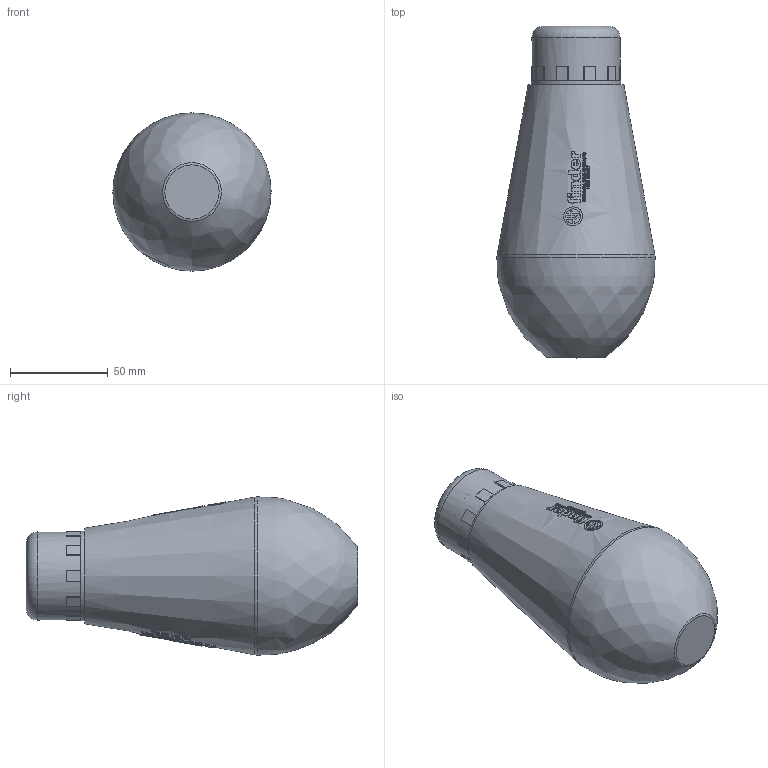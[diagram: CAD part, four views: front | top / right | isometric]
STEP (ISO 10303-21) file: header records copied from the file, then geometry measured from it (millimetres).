
FILE_DESCRIPTION(/* description */ (''),/* implementation_level */ '2;1');
FILE_NAME(/* name */ 'C:\Matic\LOVATO\Finder\Disegni Per finder\Finder Mercury.stp',/* time_stamp */ '2022-12-22T12:20:14+01:00',/* author */ ('Enrico'),/* organization */ (''),/* preprocessor_version */ 'ST-DEVELOPER v18.1',/* originating_system */ 'Autodesk Inventor 2021',/* authorisation */ '');
FILE_SCHEMA (('AUTOMOTIVE_DESIGN { 1 0 10303 214 3 1 1 }'));
Products named in the file (3): Finder Mercury Assieme; Finder mercury; ghiera Hydros
Assembly tree (2 placements, depth 2):
  Finder Mercury Assieme
    Finder mercury
    ghiera Hydros
Bounding box: 81.07 x 170 x 81.07 mm (x, y, z)
Volume: 66956.5 mm3; surface area: 77463.2 mm2
Topology: 2 solids, 2 shells, 1385 faces, 3665 edges, 2428 vertices
Faces by surface type: plane 826, bspline 354, cone 140, cylinder 57, torus 8
Full cylindrical faces by diameter (mm): 0.528 x1, 3 x1, 6 x1, 9.654 x1, 40.4 x1, 42.079 x1, 44 x1, 45.079 x1, 46.071 x1
Entity records: 55725 total; most frequent: CARTESIAN_POINT 23391, ORIENTED_EDGE 7330, DIRECTION 5656, EDGE_CURVE 3665, VERTEX_POINT 2428, AXIS2_PLACEMENT_3D 1900, LINE 1856, VECTOR 1856
